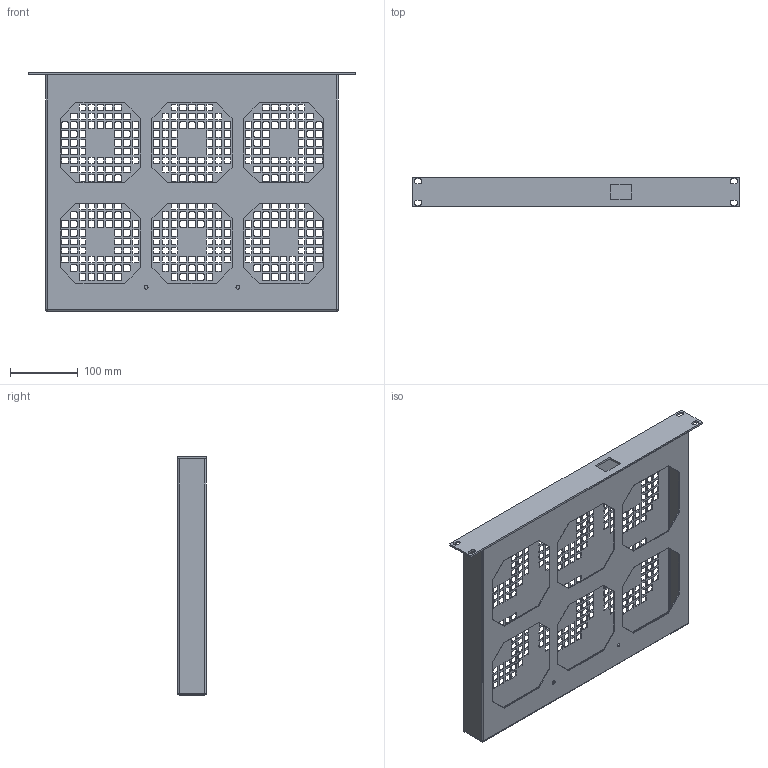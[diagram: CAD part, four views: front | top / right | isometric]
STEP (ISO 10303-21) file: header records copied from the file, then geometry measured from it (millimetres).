
FILE_DESCRIPTION (( 'STEP AP203' ), '1' );
FILE_NAME ('FI 06.230 D Ìîäóëü âåíòèëÿòîðíûé.STEP', '2013-01-14T12:42:21', ( 'Àëåêñàíäð' ), ( 'Ïðîâåíòî' ), 'SwSTEP 2.0', 'SolidWorks 2012', '' );
FILE_SCHEMA (( 'CONFIG_CONTROL_DESIGN' ));
Products named in the file (1): FI 06.230 D Ìîäóëü âåíòèëÿòîðíûé
Bounding box: 482.6 x 43.7 x 350.7 mm (x, y, z)
Volume: 339970.7 mm3; surface area: 527810.2 mm2
Topology: 1 solids, 1 shells, 3001 faces, 8972 edges, 5968 vertices
Faces by surface type: plane 1519, cylinder 1474, sphere 8
Entity records: 103223 total; most frequent: CARTESIAN_POINT 17934, ORIENTED_EDGE 17928, DIRECTION 17916, EDGE_CURVE 8964, LINE 6016, VECTOR 6016, VERTEX_POINT 5968, AXIS2_PLACEMENT_3D 5950
